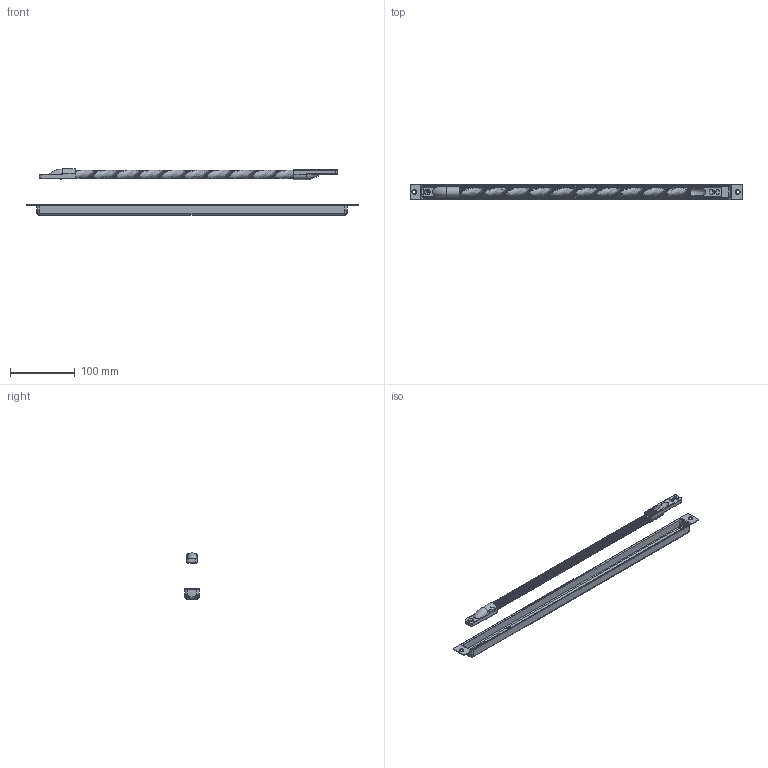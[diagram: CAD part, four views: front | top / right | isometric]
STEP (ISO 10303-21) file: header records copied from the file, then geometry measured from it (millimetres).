
FILE_DESCRIPTION((''),'2;1');
FILE_NAME('S:\Projekte\11-02_PL_LINK_Kabeluebergang_Ueberarbeitung_Koepfe\Zeichnungen\Artikel\Enprodukt\M_11_91_15.stp','2012-10-18T12:27:23',('jsuarez'),(''),'Autodesk Inventor 2013','Autodesk Inventor 2013','');
FILE_SCHEMA(('AUTOMOTIVE_DESIGN { 1 0 10303 214 1 1 1 1 }'));
Length unit declared in the file: millimetre
Products named in the file (1): M_11_91_15
Bounding box: 511 x 24 x 70.9 mm (x, y, z)
Volume: 49826.9 mm3; surface area: 102515 mm2
Topology: 4 solids, 4 shells, 495 faces, 1342 edges, 835 vertices
Faces by surface type: bspline 244, cylinder 114, plane 100, torus 18, cone 15, sphere 4
Full cylindrical faces by diameter (mm): 3 x1, 3.242 x1, 3.5 x1, 4.5 x1, 5 x1, 7 x1
Entity records: 42972 total; most frequent: CARTESIAN_POINT 31465, ORIENTED_EDGE 2624, DIRECTION 2008, EDGE_CURVE 1312, VERTEX_POINT 830, AXIS2_PLACEMENT_3D 767, EDGE_LOOP 540, FACE_OUTER_BOUND 495
